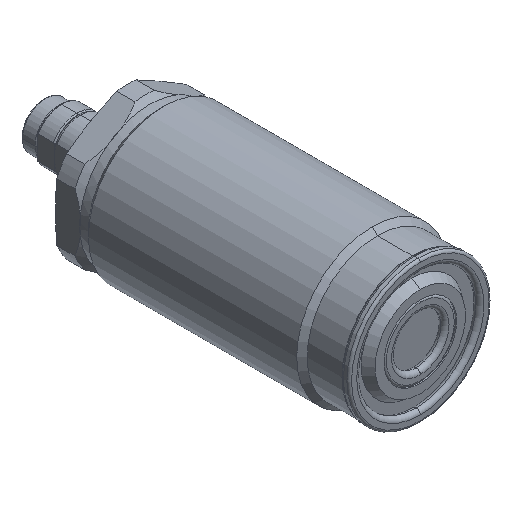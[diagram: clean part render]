
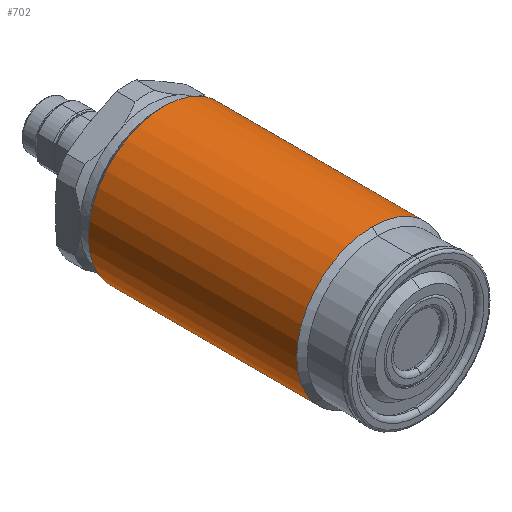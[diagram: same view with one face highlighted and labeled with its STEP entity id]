
A CAD part, isometric view. The second image highlights one B-rep face of the part: STEP entity #702.
In plain terms, the highlighted cylindrical face has radius 13 mm (diameter 26 mm), a full revolution.
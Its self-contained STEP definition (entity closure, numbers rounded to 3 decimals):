
#352=FACE_BOUND('',#1087,.T.);
#353=FACE_BOUND('',#1088,.T.);
#403=CYLINDRICAL_SURFACE('',#3020,13.);
#463=LINE('',#4460,#580);
#464=LINE('',#4465,#581);
#580=VECTOR('',#3507,1.);
#581=VECTOR('',#3510,1.);
#702=ADVANCED_FACE('',(#352,#353),#403,.T.);
#1087=EDGE_LOOP('',(#1342));
#1088=EDGE_LOOP('',(#1343,#1344,#1345,#1346,#1347,#1348));
#1342=ORIENTED_EDGE('',*,*,#2372,.T.);
#1343=ORIENTED_EDGE('',*,*,#2373,.T.);
#1344=ORIENTED_EDGE('',*,*,#2373,.F.);
#1345=ORIENTED_EDGE('',*,*,#2374,.T.);
#1346=ORIENTED_EDGE('',*,*,#2375,.T.);
#1347=ORIENTED_EDGE('',*,*,#2375,.F.);
#1348=ORIENTED_EDGE('',*,*,#2376,.T.);
#2116=VERTEX_POINT('',#4459);
#2117=VERTEX_POINT('',#4461);
#2118=VERTEX_POINT('',#4462);
#2119=VERTEX_POINT('',#4464);
#2120=VERTEX_POINT('',#4466);
#2372=EDGE_CURVE('',#2116,#2116,#2764,.T.);
#2373=EDGE_CURVE('',#2117,#2118,#463,.T.);
#2374=EDGE_CURVE('',#2117,#2119,#2765,.T.);
#2375=EDGE_CURVE('',#2119,#2120,#464,.T.);
#2376=EDGE_CURVE('',#2119,#2117,#2766,.T.);
#2764=CIRCLE('',#3017,13.);
#2765=CIRCLE('',#3018,13.);
#2766=CIRCLE('',#3019,13.);
#3017=AXIS2_PLACEMENT_3D('',#4458,#3505,#3506);
#3018=AXIS2_PLACEMENT_3D('',#4463,#3508,#3509);
#3019=AXIS2_PLACEMENT_3D('',#4467,#3511,#3512);
#3020=AXIS2_PLACEMENT_3D('',#4468,#3513,#3514);
#3505=DIRECTION('',(0.,-1.,0.));
#3506=DIRECTION('',(0.,0.,1.));
#3507=DIRECTION('',(0.,1.,0.));
#3508=DIRECTION('',(0.,1.,0.));
#3509=DIRECTION('',(0.,0.,1.));
#3510=DIRECTION('',(0.,1.,0.));
#3511=DIRECTION('',(0.,1.,0.));
#3512=DIRECTION('',(0.,0.,1.));
#3513=DIRECTION('',(0.,1.,0.));
#3514=DIRECTION('',(0.,0.,-1.));
#4458=CARTESIAN_POINT('',(0.,44.2,0.));
#4459=CARTESIAN_POINT('',(0.,44.2,13.));
#4460=CARTESIAN_POINT('',(0.,52.7,13.));
#4461=CARTESIAN_POINT('',(0.,8.3,13.));
#4462=CARTESIAN_POINT('',(0.,42.353,13.));
#4463=CARTESIAN_POINT('',(0.,8.3,0.));
#4464=CARTESIAN_POINT('',(0.,8.3,-13.));
#4465=CARTESIAN_POINT('',(0.,52.7,-13.));
#4466=CARTESIAN_POINT('',(0.,42.353,-13.));
#4467=CARTESIAN_POINT('',(0.,8.3,0.));
#4468=CARTESIAN_POINT('',(0.,52.7,0.));
